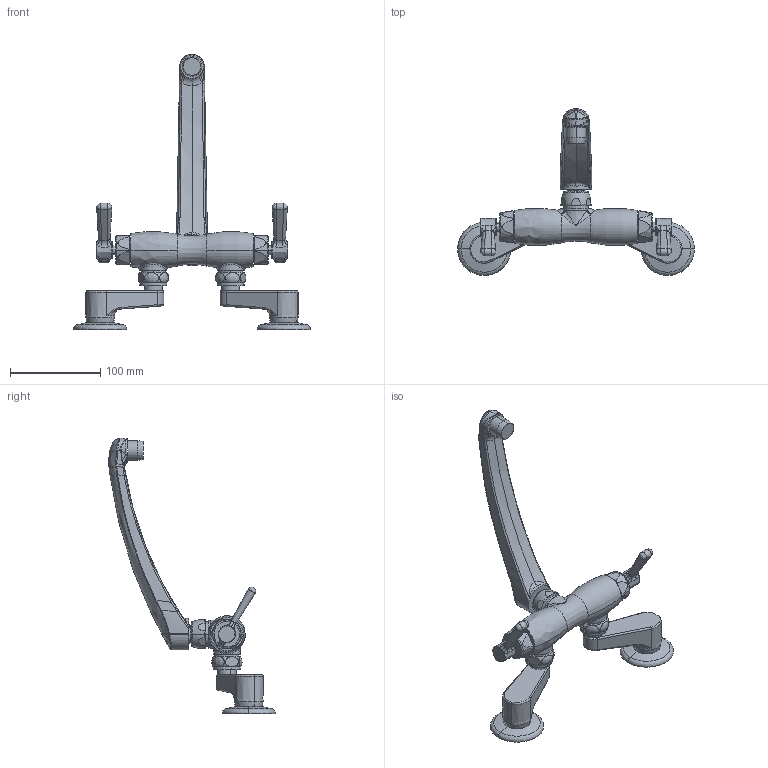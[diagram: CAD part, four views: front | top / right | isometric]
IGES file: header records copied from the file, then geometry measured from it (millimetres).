
Start section:  PTC IGES file: 445-l8ab_SCHEDULE_REV072916.igs
Global section: file name: 445-l8ab_SCHEDULE_REV072916.igs; native system: Creo Parametric by PTC Inc.; preprocessor: 2014500; author: dmisv; organization: Unknown; date: 20160729.135605; units: inch
Bounding box: 261.95 x 184.39 x 305.14 mm (x, y, z)
Surface area: 106105.9 mm2 (no closed solid volume)
Topology: 0 solids, 66 shells, 485 faces, 1219 edges, 748 vertices
Faces by surface type: bspline 333, revolution 152
